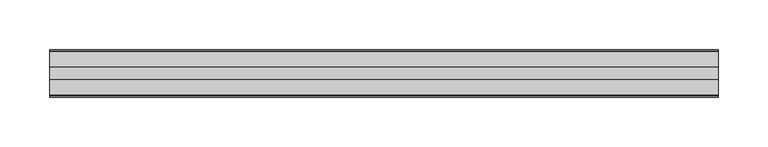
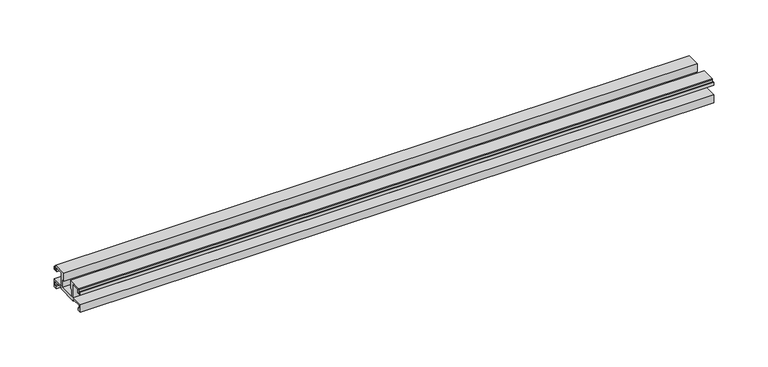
"""IFC4 building model written with IfcOpenShell, lengths in millimetres: proxy geometry, Weiku - Montante - Acoplamento vidro : Weiku - Montante - Acoplamento vidro."""

from ifc_helpers import new_model, si_unit, frame, origin, place, context, project, spatial, polyline, outline, extrude, source, transform, mapped, element, save


def generic_models_094fd7c2(model_context):
    return source(origin(), model_context, "Body", "SweptSolid", [
        extrude(outline(polyline([(35.405, 5.1494), (12.495, 5.1494), (12.495, 6.8004), (2.159, 6.8004), (2.159, 2.6094), (4.0216, 2.6094), (4.0216, 0.0), (-0.0014508, 0.0), (-0.0014508, 8.79), (12.954, 8.79), (12.954, 23.3104), (4.3603, 23.3104), (4.3603, 19.204), (0.0, 19.204), (0.0, 22.8024), (0.9736, 22.8024), (0.9736, 20.3894), (3.175, 20.3894), (3.175, 23.9454), (2.3735496, 23.9454), (2.3735496, 25.3), (17.4836, 25.3), (17.4836, 16.283), (15.4516, 16.283), (15.4516, 8.8), (32.4484, 8.8), (32.4484, 16.283), (30.4164, 16.283), (30.4164, 25.3), (45.5264504, 25.3), (45.5264504, 23.9454), (44.725, 23.9454), (44.725, 20.3894), (46.9264, 20.3894), (46.9264, 22.8024), (47.9, 22.8024), (47.9, 19.204), (43.5397, 19.204), (43.5397, 23.3104), (34.946, 23.3104), (34.946, 8.79), (47.9014508, 8.79), (47.9014508, 0.0), (43.8784, 0.0), (43.8784, 2.6094), (45.741, 2.6094), (45.741, 6.8004), (35.405, 6.8004), (35.405, 5.1494)])), frame((-337.1, 0.0, 0.0), z_axis=(1.0, 0.0, 0.0), x_axis=(0.0, 1.0, 0.0)), (0.0, 0.0, 1.0), 674.2),
    ])


if __name__ == "__main__":
    model = new_model("IFC4")
    model_context = context("Model", 3, world=origin())
    ifc_project = project(units=[si_unit("LENGTHUNIT", "METRE", prefix="MILLI")], contexts=[model_context])
    site = spatial("IfcSite", under=ifc_project)
    building = spatial("IfcBuilding", under=site)
    placement = place(None, origin())
    generic_models_shape = generic_models_094fd7c2(model_context)
    element("IfcBuildingElementProxy", 1, Name="Weiku - Montante - Acoplamento vidro : Weiku - Montante - Acoplamento vidro", ObjectType="Weiku - Montante - Acoplamento vidro : Weiku - Montante - Acoplamento vidro", at=placement, inside=building, context=model_context, shape_type="MappedRepresentation", body=[
        mapped(generic_models_shape, transform((0.0, 0.0, 0.0), x_axis=(1.0, 0.0, 0.0), y_axis=(0.0, 1.0, 0.0), z_axis=(0.0, 0.0, 1.0))),
    ])
    save(model, "model.ifc")
